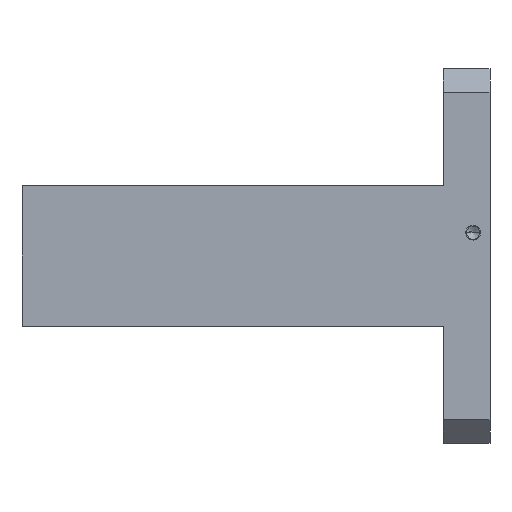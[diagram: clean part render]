
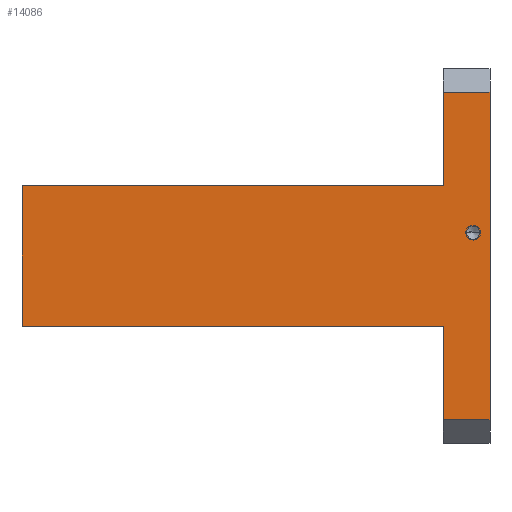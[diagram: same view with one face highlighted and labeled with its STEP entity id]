
A CAD part, left-side view. The second image highlights one B-rep face of the part: STEP entity #14086.
In plain terms, the highlighted planar face has unit normal (-1, 0, 0).
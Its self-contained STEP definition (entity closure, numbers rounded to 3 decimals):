
#35=DIRECTION('',(0.,0.,1.));
#36=VECTOR('',#35,100.);
#37=CARTESIAN_POINT('',(-200.,0.,75.));
#38=LINE('',#37,#36);
#75=DIRECTION('',(0.,0.,1.));
#76=VECTOR('',#75,100.);
#77=CARTESIAN_POINT('',(-200.,0.,-175.));
#78=LINE('',#77,#76);
#233=DIRECTION('',(0.,0.,1.));
#234=VECTOR('',#233,350.);
#235=CARTESIAN_POINT('',(-200.,-50.,-175.));
#236=LINE('',#235,#234);
#459=CARTESIAN_POINT('',(-200.,-32.,25.));
#460=DIRECTION('',(-1.,0.,0.));
#461=DIRECTION('',(0.,1.,0.));
#462=AXIS2_PLACEMENT_3D('',#459,#460,#461);
#464=CARTESIAN_POINT('',(-200.,-32.,25.));
#465=DIRECTION('',(-1.,0.,0.));
#466=DIRECTION('',(0.,-1.,0.));
#467=AXIS2_PLACEMENT_3D('',#464,#465,#466);
#469=DIRECTION('',(0.,-1.,0.));
#470=VECTOR('',#469,50.);
#471=CARTESIAN_POINT('',(-200.,0.,175.));
#472=LINE('',#471,#470);
#473=DIRECTION('',(0.,-1.,0.));
#474=VECTOR('',#473,50.);
#475=CARTESIAN_POINT('',(-200.,0.,-175.));
#476=LINE('',#475,#474);
#477=DIRECTION('',(0.,1.,0.));
#478=VECTOR('',#477,450.);
#479=CARTESIAN_POINT('',(-200.,0.,-75.));
#480=LINE('',#479,#478);
#607=DIRECTION('',(0.,1.,0.));
#608=VECTOR('',#607,450.);
#609=CARTESIAN_POINT('',(-200.,0.,75.));
#610=LINE('',#609,#608);
#1251=DIRECTION('',(0.,0.,1.));
#1252=VECTOR('',#1251,150.);
#1253=CARTESIAN_POINT('',(-200.,450.,-75.));
#1254=LINE('',#1253,#1252);
#10519=CARTESIAN_POINT('',(-200.,450.,-75.));
#10520=CARTESIAN_POINT('',(-200.,450.,75.));
#10521=VERTEX_POINT('',#10519);
#10522=VERTEX_POINT('',#10520);
#10527=CARTESIAN_POINT('',(-200.,0.,75.));
#10529=VERTEX_POINT('',#10527);
#10531=CARTESIAN_POINT('',(-200.,0.,-75.));
#10533=VERTEX_POINT('',#10531);
#10625=CARTESIAN_POINT('',(-200.,-25.,25.));
#10626=CARTESIAN_POINT('',(-200.,-39.,25.));
#10627=VERTEX_POINT('',#10625);
#10628=VERTEX_POINT('',#10626);
#10630=CARTESIAN_POINT('',(-200.,-50.,175.));
#10632=VERTEX_POINT('',#10630);
#10633=CARTESIAN_POINT('',(-200.,0.,175.));
#10634=VERTEX_POINT('',#10633);
#10639=CARTESIAN_POINT('',(-200.,-50.,-175.));
#10640=VERTEX_POINT('',#10639);
#10647=CARTESIAN_POINT('',(-200.,0.,-175.));
#10648=VERTEX_POINT('',#10647);
#14061=CARTESIAN_POINT('',(-200.,0.,-200.));
#14062=DIRECTION('',(-1.,0.,0.));
#14063=DIRECTION('',(0.,0.,1.));
#14064=AXIS2_PLACEMENT_3D('',#14061,#14062,#14063);
#14065=PLANE('',#14064);
#14066=ORIENTED_EDGE('',*,*,#14053,.T.);
#14067=ORIENTED_EDGE('',*,*,#13605,.F.);
#14069=ORIENTED_EDGE('',*,*,#14068,.F.);
#14070=ORIENTED_EDGE('',*,*,#13504,.T.);
#14072=ORIENTED_EDGE('',*,*,#14071,.T.);
#14074=ORIENTED_EDGE('',*,*,#14073,.T.);
#14076=ORIENTED_EDGE('',*,*,#14075,.F.);
#14077=ORIENTED_EDGE('',*,*,#13458,.T.);
#14078=EDGE_LOOP('',(#14066,#14067,#14069,#14070,#14072,#14074,#14076,#14077));
#14079=FACE_OUTER_BOUND('',#14078,.F.);
#14081=ORIENTED_EDGE('',*,*,#14080,.T.);
#14083=ORIENTED_EDGE('',*,*,#14082,.T.);
#14084=EDGE_LOOP('',(#14081,#14083));
#14085=FACE_BOUND('',#14084,.F.);
#14086=ADVANCED_FACE('',(#14079,#14085),#14065,.T.);
#463=CIRCLE('',#462,7.);
#468=CIRCLE('',#467,7.);
#13458=EDGE_CURVE('',#10529,#10634,#38,.T.);
#13504=EDGE_CURVE('',#10648,#10533,#78,.T.);
#13605=EDGE_CURVE('',#10640,#10632,#236,.T.);
#14053=EDGE_CURVE('',#10634,#10632,#472,.T.);
#14068=EDGE_CURVE('',#10648,#10640,#476,.T.);
#14071=EDGE_CURVE('',#10533,#10521,#480,.T.);
#14073=EDGE_CURVE('',#10521,#10522,#1254,.T.);
#14075=EDGE_CURVE('',#10529,#10522,#610,.T.);
#14080=EDGE_CURVE('',#10627,#10628,#463,.T.);
#14082=EDGE_CURVE('',#10628,#10627,#468,.T.);
